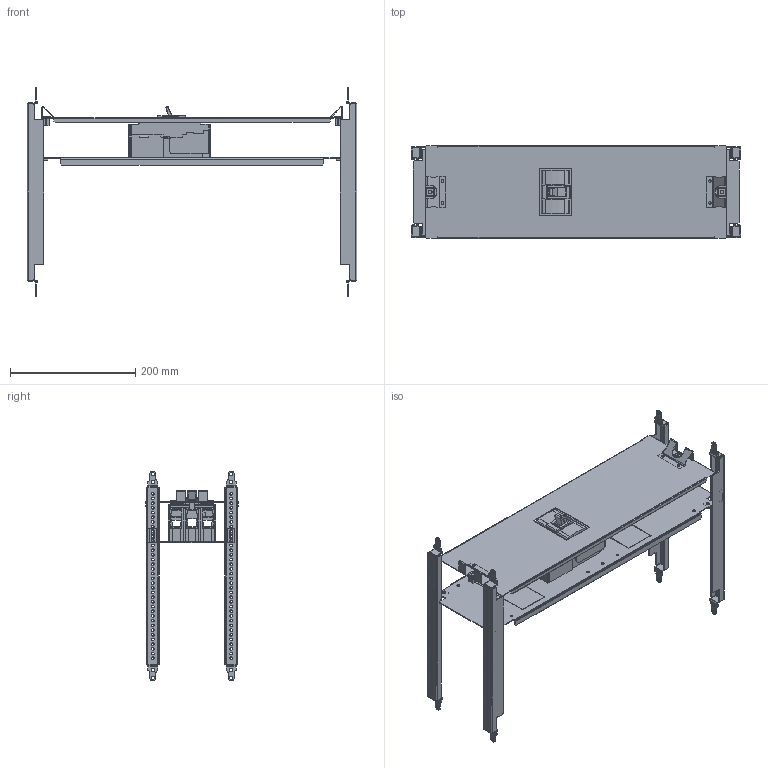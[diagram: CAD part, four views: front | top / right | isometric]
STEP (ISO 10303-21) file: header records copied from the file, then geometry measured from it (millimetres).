
FILE_DESCRIPTION(('CAx-IF Rec.Pracs.---Model Styling and Organization---1.2---2011-12-15','CAx-IF Rec.Pracs.---Geometric and Assembly Validation Properties---4.1---2014-06-16','CAx-IF Rec.Pracs.---PMI Polyline Presentation---2.0---2013-05-24'),'2;1');
FILE_NAME('R5PKIB7H61111.stp','2021-07-29T03:02:10+03:00',(''),(''),'STEP Interface 4.4 by CT CoreTechnologie','3D_Evolution4.4 by CT CoreTechnologie','');
FILE_SCHEMA(('AUTOMOTIVE_DESIGN { 1 0 10303 214 1 1 1 1 }'));
Length unit declared in the file: millimetre
Products named in the file (1): R5PKIB7H61111
Bounding box: 526 x 148 x 335 mm (x, y, z)
Surface area: 533581.8 mm2 (no closed solid volume)
Topology: 0 solids, 49 shells, 1771 faces, 5802 edges, 4071 vertices
Faces by surface type: plane 993, cylinder 736, bspline 42
Entity records: 65737 total; most frequent: CARTESIAN_POINT 12981, DIRECTION 10800, ORIENTED_EDGE 10737, EDGE_CURVE 5794, VECTOR 4132, LINE 4132, VERTEX_POINT 4071, AXIS2_PLACEMENT_3D 3334
